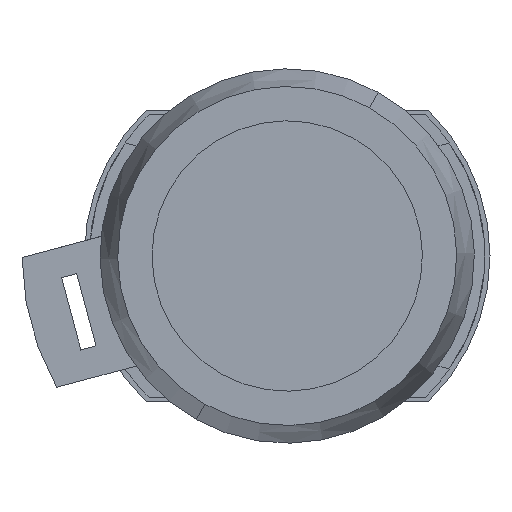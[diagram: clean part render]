
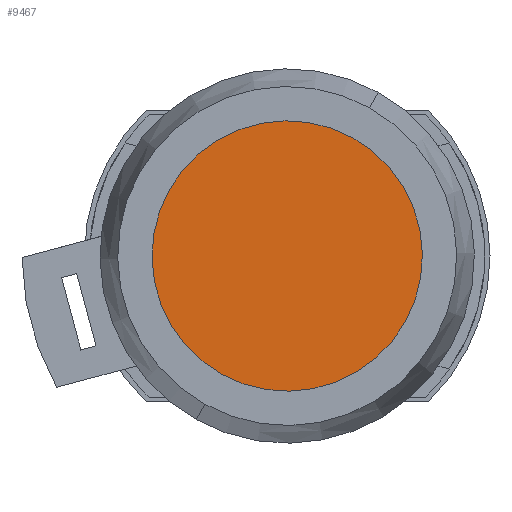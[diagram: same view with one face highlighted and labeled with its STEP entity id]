
A CAD part, left-side view. The second image highlights one B-rep face of the part: STEP entity #9467.
In plain terms, the highlighted planar face has unit normal (-1, 0, 0).
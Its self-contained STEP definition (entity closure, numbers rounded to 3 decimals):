
#426 = EDGE_CURVE ( 'NONE', #11706, #11705, #1767, .T. ) ;
#452 = EDGE_CURVE ( 'NONE', #11705, #11706, #1800, .T. ) ;
#1767 = CIRCLE ( 'NONE', #2172, 13. ) ;
#1800 = CIRCLE ( 'NONE', #2184, 13. ) ;
#2172 = AXIS2_PLACEMENT_3D ( 'NONE', #2700, #2709, #2710 ) ;
#2184 = AXIS2_PLACEMENT_3D ( 'NONE', #2775, #2777, #2778 ) ;
#2700 = CARTESIAN_POINT ( 'NONE',  ( 1., 0., 0. ) ) ;
#2709 = DIRECTION ( 'NONE',  ( -1., 0., 0. ) ) ;
#2710 = DIRECTION ( 'NONE',  ( 0., 0., -1. ) ) ;
#2775 = CARTESIAN_POINT ( 'NONE',  ( 1., 0., 0. ) ) ;
#2777 = DIRECTION ( 'NONE',  ( -1., 0., 0. ) ) ;
#2778 = DIRECTION ( 'NONE',  ( 0., 0., -1. ) ) ;
#4426 = FACE_OUTER_BOUND ( 'NONE', #6820, .T. ) ;
#5917 = CARTESIAN_POINT ( 'NONE',  ( 1., 6.5, 0. ) ) ;
#5926 = PLANE ( 'NONE',  #6387 ) ;
#5933 = DIRECTION ( 'NONE',  ( -1., 0., 0. ) ) ;
#5934 = DIRECTION ( 'NONE',  ( 0., 0., 1. ) ) ;
#6387 = AXIS2_PLACEMENT_3D ( 'NONE', #5917, #5933, #5934 ) ;
#6820 = EDGE_LOOP ( 'NONE', ( #10194, #10195 ) ) ;
#8486 = CARTESIAN_POINT ( 'NONE',  ( 1., 0., 13. ) ) ;
#8487 = CARTESIAN_POINT ( 'NONE',  ( 1., 0., -13. ) ) ;
#9467 = ADVANCED_FACE ( 'NONE', ( #4426 ), #5926, .T. ) ;
#10194 = ORIENTED_EDGE ( 'NONE', *, *, #426, .T. ) ;
#10195 = ORIENTED_EDGE ( 'NONE', *, *, #452, .T. ) ;
#11705 = VERTEX_POINT ( 'NONE', #8486 ) ;
#11706 = VERTEX_POINT ( 'NONE', #8487 ) ;
